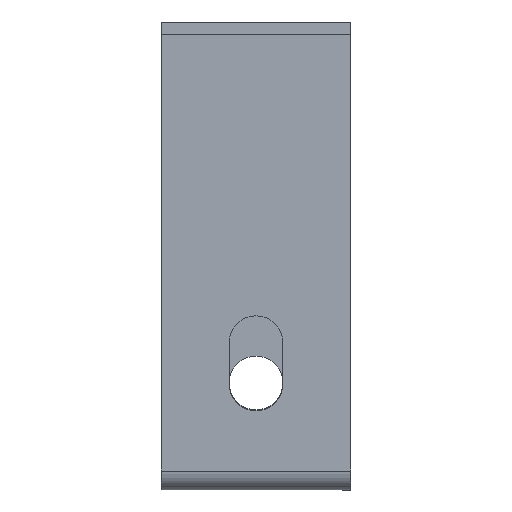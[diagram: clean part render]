
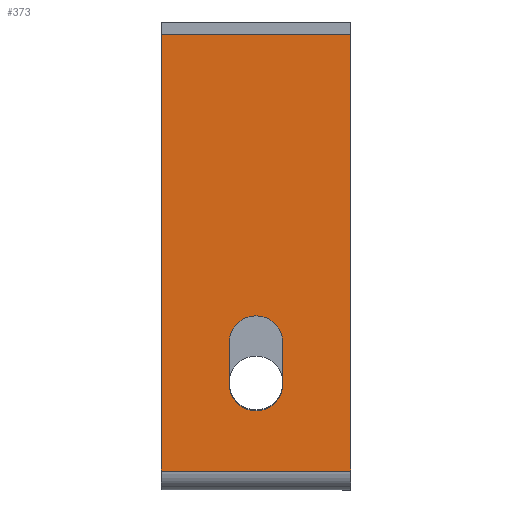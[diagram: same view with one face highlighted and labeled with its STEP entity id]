
A CAD part, front view. The second image highlights one B-rep face of the part: STEP entity #373.
In plain terms, the highlighted planar face has unit normal (0, -1, 0) as drawn and (0, 0, -1) by its records, which use the part's own axes.
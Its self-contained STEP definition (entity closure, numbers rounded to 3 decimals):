
#61 = VERTEX_POINT ( 'NONE', #2546 ) ;
#66 = EDGE_LOOP ( 'NONE', ( #3106, #1229, #2945, #2226 ) ) ;
#74 = LINE ( 'NONE', #3252, #1626 ) ;
#78 = AXIS2_PLACEMENT_3D ( 'NONE', #3109, #411, #81 ) ;
#81 = DIRECTION ( 'NONE',  ( 1., 0., 0. ) ) ;
#102 = DIRECTION ( 'NONE',  ( -1., 0., 0. ) ) ;
#107 = VECTOR ( 'NONE', #1813, 1000. ) ;
#347 = CARTESIAN_POINT ( 'NONE',  ( 30., 46.5, 0. ) ) ;
#373 = ADVANCED_FACE ( 'NONE', ( #1360, #2920 ), #2884, .F. ) ;
#411 = DIRECTION ( 'NONE',  ( 0., 0., 1. ) ) ;
#501 = CARTESIAN_POINT ( 'NONE',  ( 38.5, 46.5, 0. ) ) ;
#509 = EDGE_CURVE ( 'NONE', #1391, #626, #2871, .T. ) ;
#513 = CARTESIAN_POINT ( 'NONE',  ( 30., 144., 0. ) ) ;
#525 = ORIENTED_EDGE ( 'NONE', *, *, #3481, .T. ) ;
#626 = VERTEX_POINT ( 'NONE', #1595 ) ;
#656 = CARTESIAN_POINT ( 'NONE',  ( 30., 6., 0. ) ) ;
#661 = AXIS2_PLACEMENT_3D ( 'NONE', #347, #909, #663 ) ;
#663 = DIRECTION ( 'NONE',  ( -1., 0., 0. ) ) ;
#752 = VECTOR ( 'NONE', #2593, 1000. ) ;
#759 = CARTESIAN_POINT ( 'NONE',  ( 0., 6., 0. ) ) ;
#880 = LINE ( 'NONE', #2648, #107 ) ;
#887 = VECTOR ( 'NONE', #1981, 1000. ) ;
#902 = VERTEX_POINT ( 'NONE', #2562 ) ;
#909 = DIRECTION ( 'NONE',  ( 0., 0., 1. ) ) ;
#968 = CARTESIAN_POINT ( 'NONE',  ( 30., 33.5, 0. ) ) ;
#1196 = CARTESIAN_POINT ( 'NONE',  ( 60., 144., 0. ) ) ;
#1197 = DIRECTION ( 'NONE',  ( 0., 1., 0. ) ) ;
#1229 = ORIENTED_EDGE ( 'NONE', *, *, #509, .T. ) ;
#1360 = FACE_BOUND ( 'NONE', #66, .T. ) ;
#1391 = VERTEX_POINT ( 'NONE', #2566 ) ;
#1595 = CARTESIAN_POINT ( 'NONE',  ( 38.5, 33.5, 0. ) ) ;
#1626 = VECTOR ( 'NONE', #2300, 1000. ) ;
#1636 = LINE ( 'NONE', #3576, #3078 ) ;
#1798 = LINE ( 'NONE', #656, #2360 ) ;
#1813 = DIRECTION ( 'NONE',  ( 0., 1., 0. ) ) ;
#1958 = CARTESIAN_POINT ( 'NONE',  ( 21.5, 46.5, 0. ) ) ;
#1981 = DIRECTION ( 'NONE',  ( 1., 0., 0. ) ) ;
#2041 = EDGE_CURVE ( 'NONE', #626, #2489, #1636, .T. ) ;
#2141 = DIRECTION ( 'NONE',  ( 1., 0., 0. ) ) ;
#2152 = EDGE_CURVE ( 'NONE', #3130, #61, #1798, .T. ) ;
#2163 = LINE ( 'NONE', #1958, #752 ) ;
#2226 = ORIENTED_EDGE ( 'NONE', *, *, #2828, .T. ) ;
#2300 = DIRECTION ( 'NONE',  ( 0., -1., 0. ) ) ;
#2360 = VECTOR ( 'NONE', #2141, 1000. ) ;
#2489 = VERTEX_POINT ( 'NONE', #501 ) ;
#2493 = CIRCLE ( 'NONE', #661, 8.5 ) ;
#2546 = CARTESIAN_POINT ( 'NONE',  ( 60., 6., 0. ) ) ;
#2562 = CARTESIAN_POINT ( 'NONE',  ( 21.5, 46.5, 0. ) ) ;
#2566 = CARTESIAN_POINT ( 'NONE',  ( 21.5, 33.5, 0. ) ) ;
#2574 = LINE ( 'NONE', #513, #887 ) ;
#2593 = DIRECTION ( 'NONE',  ( 0., -1., 0. ) ) ;
#2601 = EDGE_CURVE ( 'NONE', #3280, #3130, #74, .T. ) ;
#2648 = CARTESIAN_POINT ( 'NONE',  ( 60., 160., 0. ) ) ;
#2699 = AXIS2_PLACEMENT_3D ( 'NONE', #968, #3631, #102 ) ;
#2828 = EDGE_CURVE ( 'NONE', #2489, #902, #2493, .T. ) ;
#2849 = CARTESIAN_POINT ( 'NONE',  ( 0., 144., 0. ) ) ;
#2871 = CIRCLE ( 'NONE', #2699, 8.5 ) ;
#2884 = PLANE ( 'NONE',  #78 ) ;
#2913 = ORIENTED_EDGE ( 'NONE', *, *, #2152, .F. ) ;
#2920 = FACE_OUTER_BOUND ( 'NONE', #3685, .T. ) ;
#2945 = ORIENTED_EDGE ( 'NONE', *, *, #2041, .T. ) ;
#3078 = VECTOR ( 'NONE', #1197, 1000. ) ;
#3106 = ORIENTED_EDGE ( 'NONE', *, *, #3213, .T. ) ;
#3109 = CARTESIAN_POINT ( 'NONE',  ( 30., 80., 0. ) ) ;
#3130 = VERTEX_POINT ( 'NONE', #759 ) ;
#3213 = EDGE_CURVE ( 'NONE', #902, #1391, #2163, .T. ) ;
#3252 = CARTESIAN_POINT ( 'NONE',  ( 0., 0., 0. ) ) ;
#3262 = ORIENTED_EDGE ( 'NONE', *, *, #2601, .F. ) ;
#3280 = VERTEX_POINT ( 'NONE', #2849 ) ;
#3481 = EDGE_CURVE ( 'NONE', #3280, #3730, #2574, .T. ) ;
#3562 = ORIENTED_EDGE ( 'NONE', *, *, #3708, .F. ) ;
#3576 = CARTESIAN_POINT ( 'NONE',  ( 38.5, 33.5, 0. ) ) ;
#3631 = DIRECTION ( 'NONE',  ( 0., 0., 1. ) ) ;
#3685 = EDGE_LOOP ( 'NONE', ( #3262, #525, #3562, #2913 ) ) ;
#3708 = EDGE_CURVE ( 'NONE', #61, #3730, #880, .T. ) ;
#3730 = VERTEX_POINT ( 'NONE', #1196 ) ;
